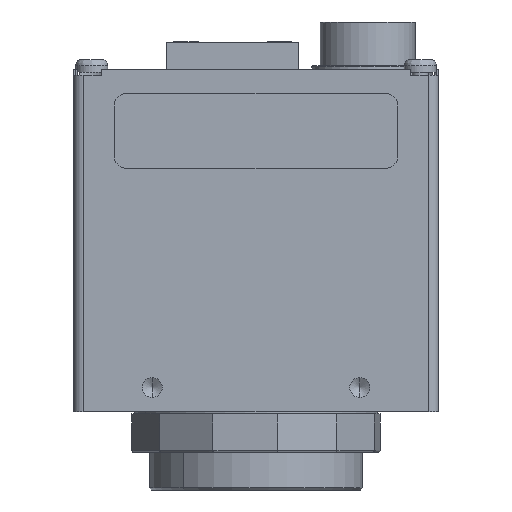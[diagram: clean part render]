
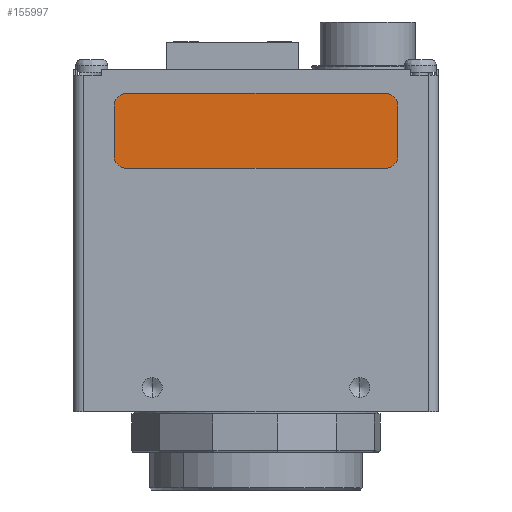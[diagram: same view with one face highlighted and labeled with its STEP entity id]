
A CAD part, front view. The second image highlights one B-rep face of the part: STEP entity #155997.
In plain terms, the highlighted planar face has unit normal (0, -1, 0).
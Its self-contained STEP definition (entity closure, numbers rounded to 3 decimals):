
#1270 = CARTESIAN_POINT ( 'NONE',  ( -16.192, -16.002, 32.083 ) ) ;
#4629 = ORIENTED_EDGE ( 'NONE', *, *, #10556, .T. ) ;
#9607 = ORIENTED_EDGE ( 'NONE', *, *, #135745, .T. ) ;
#10556 = EDGE_CURVE ( 'NONE', #40528, #90130, #146805, .T. ) ;
#11405 = CARTESIAN_POINT ( 'NONE',  ( 16.192, -16.002, 38.306 ) ) ;
#12430 = VECTOR ( 'NONE', #91695, 1000. ) ;
#13688 = EDGE_CURVE ( 'NONE', #23986, #110694, #129294, .T. ) ;
#13780 = DIRECTION ( 'NONE',  ( 0., 0., -1. ) ) ;
#15277 = CARTESIAN_POINT ( 'NONE',  ( -17.78, -16.002, 38.306 ) ) ;
#19998 = CARTESIAN_POINT ( 'NONE',  ( -16.192, -16.002, 30.496 ) ) ;
#23846 = DIRECTION ( 'NONE',  ( 0., 0., 1. ) ) ;
#23986 = VERTEX_POINT ( 'NONE', #66373 ) ;
#25073 = EDGE_CURVE ( 'NONE', #90130, #119068, #34024, .T. ) ;
#25920 = DIRECTION ( 'NONE',  ( 0., 0., -1. ) ) ;
#26150 = DIRECTION ( 'NONE',  ( 0., -1., 0. ) ) ;
#26509 = CARTESIAN_POINT ( 'NONE',  ( 16.192, -16.002, 32.083 ) ) ;
#28932 = ORIENTED_EDGE ( 'NONE', *, *, #25073, .T. ) ;
#32183 = VECTOR ( 'NONE', #99720, 1000. ) ;
#34024 = LINE ( 'NONE', #120426, #95308 ) ;
#34820 = ORIENTED_EDGE ( 'NONE', *, *, #13688, .T. ) ;
#40528 = VERTEX_POINT ( 'NONE', #154403 ) ;
#41263 = EDGE_CURVE ( 'NONE', #59872, #40528, #110074, .T. ) ;
#42386 = CIRCLE ( 'NONE', #70303, 1.587 ) ;
#43653 = VERTEX_POINT ( 'NONE', #15277 ) ;
#43842 = CARTESIAN_POINT ( 'NONE',  ( -17.78, -16.002, 38.306 ) ) ;
#59872 = VERTEX_POINT ( 'NONE', #19998 ) ;
#61700 = CARTESIAN_POINT ( 'NONE',  ( 16.192, -16.002, 38.306 ) ) ;
#62813 = CARTESIAN_POINT ( 'NONE',  ( -16.192, -16.002, 38.306 ) ) ;
#66224 = ORIENTED_EDGE ( 'NONE', *, *, #103323, .T. ) ;
#66373 = CARTESIAN_POINT ( 'NONE',  ( 16.192, -16.002, 39.894 ) ) ;
#70114 = AXIS2_PLACEMENT_3D ( 'NONE', #26509, #26150, #25920 ) ;
#70303 = AXIS2_PLACEMENT_3D ( 'NONE', #61700, #145757, #74005 ) ;
#71138 = ORIENTED_EDGE ( 'NONE', *, *, #41263, .T. ) ;
#74005 = DIRECTION ( 'NONE',  ( 0., 0., -1. ) ) ;
#75118 = DIRECTION ( 'NONE',  ( 0., 0., -1. ) ) ;
#75763 = CARTESIAN_POINT ( 'NONE',  ( 17.78, -16.002, 38.306 ) ) ;
#76065 = FACE_OUTER_BOUND ( 'NONE', #129924, .T. ) ;
#78221 = ORIENTED_EDGE ( 'NONE', *, *, #148938, .T. ) ;
#80229 = VECTOR ( 'NONE', #118783, 1000. ) ;
#80565 = CIRCLE ( 'NONE', #99868, 1.587 ) ;
#83910 = AXIS2_PLACEMENT_3D ( 'NONE', #11405, #97235, #23846 ) ;
#87357 = DIRECTION ( 'NONE',  ( 0., -1., 0. ) ) ;
#88486 = VERTEX_POINT ( 'NONE', #140392 ) ;
#90130 = VERTEX_POINT ( 'NONE', #120741 ) ;
#91695 = DIRECTION ( 'NONE',  ( 1., 0., 0. ) ) ;
#92210 = CARTESIAN_POINT ( 'NONE',  ( -16.192, -16.002, 30.496 ) ) ;
#95308 = VECTOR ( 'NONE', #119922, 1000. ) ;
#97235 = DIRECTION ( 'NONE',  ( 0., 1., 0. ) ) ;
#98149 = CARTESIAN_POINT ( 'NONE',  ( -16.192, -16.002, 39.894 ) ) ;
#99720 = DIRECTION ( 'NONE',  ( -1., 0., 0. ) ) ;
#99868 = AXIS2_PLACEMENT_3D ( 'NONE', #62813, #146801, #75118 ) ;
#103323 = EDGE_CURVE ( 'NONE', #88486, #59872, #110561, .T. ) ;
#107015 = EDGE_CURVE ( 'NONE', #119068, #23986, #42386, .T. ) ;
#110074 = LINE ( 'NONE', #92210, #12430 ) ;
#110561 = CIRCLE ( 'NONE', #118240, 1.587 ) ;
#110694 = VERTEX_POINT ( 'NONE', #144543 ) ;
#118240 = AXIS2_PLACEMENT_3D ( 'NONE', #1270, #87357, #13780 ) ;
#118783 = DIRECTION ( 'NONE',  ( 0., 0., -1. ) ) ;
#119068 = VERTEX_POINT ( 'NONE', #75763 ) ;
#119922 = DIRECTION ( 'NONE',  ( 0., 0., 1. ) ) ;
#120426 = CARTESIAN_POINT ( 'NONE',  ( 17.78, -16.002, 38.306 ) ) ;
#120741 = CARTESIAN_POINT ( 'NONE',  ( 17.78, -16.002, 32.083 ) ) ;
#120930 = PLANE ( 'NONE',  #83910 ) ;
#129294 = LINE ( 'NONE', #98149, #32183 ) ;
#129924 = EDGE_LOOP ( 'NONE', ( #34820, #78221, #9607, #66224, #71138, #4629, #28932, #155154 ) ) ;
#135745 = EDGE_CURVE ( 'NONE', #43653, #88486, #143987, .T. ) ;
#140392 = CARTESIAN_POINT ( 'NONE',  ( -17.78, -16.002, 32.083 ) ) ;
#143987 = LINE ( 'NONE', #43842, #80229 ) ;
#144543 = CARTESIAN_POINT ( 'NONE',  ( -16.192, -16.002, 39.894 ) ) ;
#145757 = DIRECTION ( 'NONE',  ( 0., -1., 0. ) ) ;
#146801 = DIRECTION ( 'NONE',  ( 0., -1., 0. ) ) ;
#146805 = CIRCLE ( 'NONE', #70114, 1.587 ) ;
#148938 = EDGE_CURVE ( 'NONE', #110694, #43653, #80565, .T. ) ;
#154403 = CARTESIAN_POINT ( 'NONE',  ( 16.192, -16.002, 30.496 ) ) ;
#155154 = ORIENTED_EDGE ( 'NONE', *, *, #107015, .T. ) ;
#155997 = ADVANCED_FACE ( 'NONE', ( #76065 ), #120930, .F. ) ;
